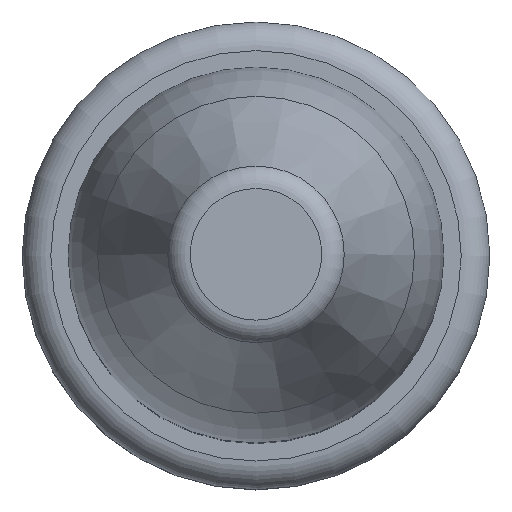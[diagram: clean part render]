
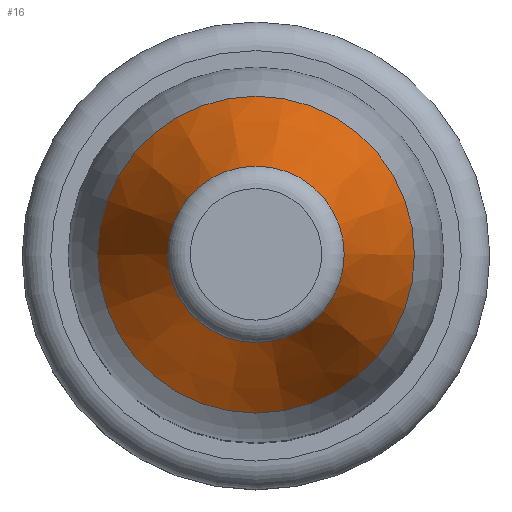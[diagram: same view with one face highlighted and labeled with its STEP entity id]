
A CAD part, top view. The second image highlights one B-rep face of the part: STEP entity #16.
In plain terms, the highlighted conical face has half-angle 20 degrees and reference radius 4.216 mm.
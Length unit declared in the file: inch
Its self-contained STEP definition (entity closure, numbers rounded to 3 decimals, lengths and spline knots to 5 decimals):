
#8 = ORIENTED_EDGE ( 'NONE', *, *, #159, .F. ) ;
#16 = ADVANCED_FACE ( 'NONE', ( #107, #221 ), #31, .T. ) ;
#22 = DIRECTION ( 'NONE',  ( 0., 0., -1. ) ) ;
#23 = VERTEX_POINT ( 'NONE', #169 ) ;
#31 = CONICAL_SURFACE ( 'NONE', #164, 0.16597, 0.349 ) ;
#35 = EDGE_CURVE ( 'NONE', #187, #187, #193, .T. ) ;
#37 = CARTESIAN_POINT ( 'NONE',  ( 0., 0., 1.07725 ) ) ;
#71 = CARTESIAN_POINT ( 'NONE',  ( 0., 0., 0.87511 ) ) ;
#75 = DIRECTION ( 'NONE',  ( 1., 0., 0. ) ) ;
#93 = CARTESIAN_POINT ( 'NONE',  ( 0., 0., 0.87511 ) ) ;
#107 = FACE_BOUND ( 'NONE', #170, .T. ) ;
#108 = CARTESIAN_POINT ( 'NONE',  ( 0.16597, 0., 0.87511 ) ) ;
#112 = ORIENTED_EDGE ( 'NONE', *, *, #35, .T. ) ;
#127 = DIRECTION ( 'NONE',  ( 0., 0., 1. ) ) ;
#137 = DIRECTION ( 'NONE',  ( 1., 0., 0. ) ) ;
#159 = EDGE_CURVE ( 'NONE', #23, #23, #183, .T. ) ;
#164 = AXIS2_PLACEMENT_3D ( 'NONE', #93, #22, #218 ) ;
#169 = CARTESIAN_POINT ( 'NONE',  ( 0.0924, 0., 1.07725 ) ) ;
#170 = EDGE_LOOP ( 'NONE', ( #8 ) ) ;
#175 = AXIS2_PLACEMENT_3D ( 'NONE', #37, #127, #75 ) ;
#183 = CIRCLE ( 'NONE', #175, 0.0924 ) ;
#187 = VERTEX_POINT ( 'NONE', #108 ) ;
#193 = CIRCLE ( 'NONE', #220, 0.16597 ) ;
#205 = EDGE_LOOP ( 'NONE', ( #112 ) ) ;
#218 = DIRECTION ( 'NONE',  ( -1., 0., 0. ) ) ;
#220 = AXIS2_PLACEMENT_3D ( 'NONE', #71, #227, #137 ) ;
#221 = FACE_OUTER_BOUND ( 'NONE', #205, .T. ) ;
#227 = DIRECTION ( 'NONE',  ( 0., 0., 1. ) ) ;
